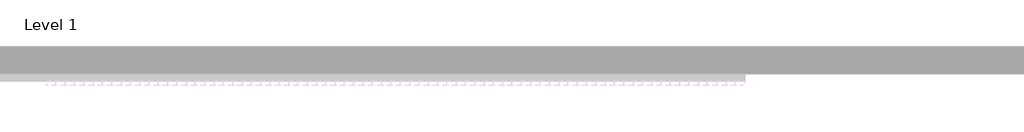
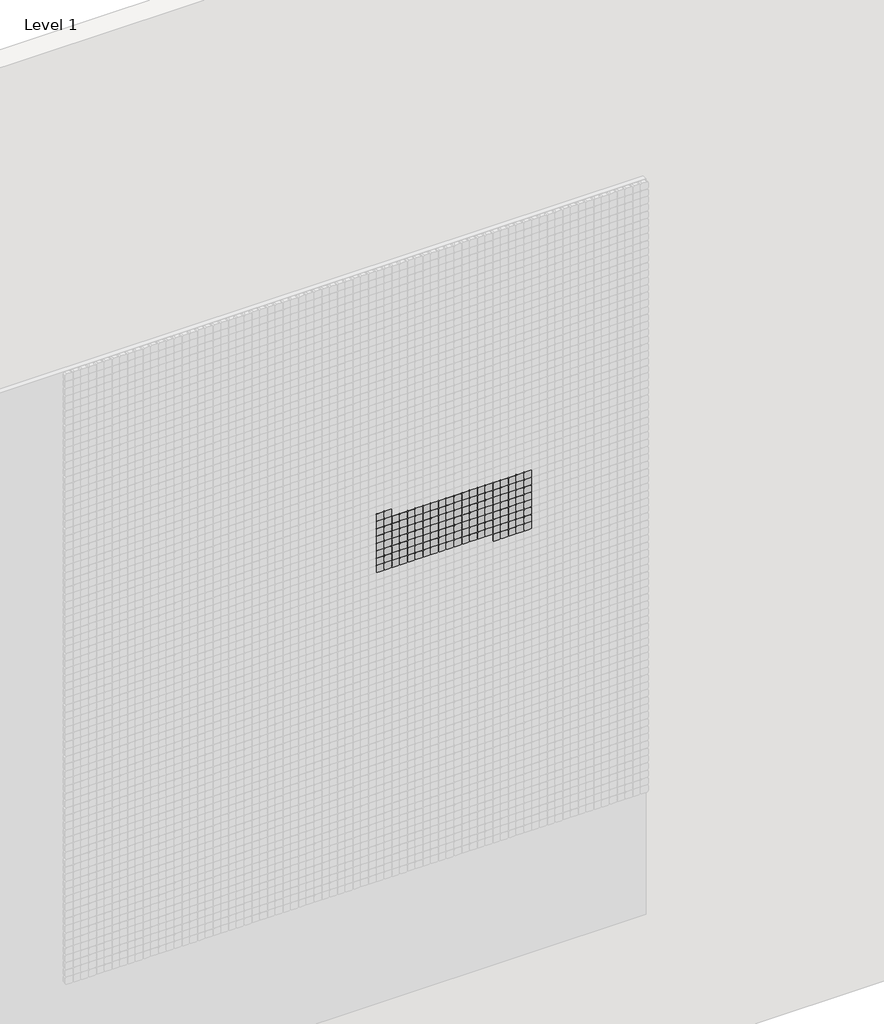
# One storey, part 53 of 71: 147 proxies.
"""IFC4 building model written with IfcOpenShell, lengths in millimetres."""

from ifc_helpers import new_model, si_unit, origin, place, context, project, spatial, transform, mapped, element, save
from components import generic_models_afde289c

model = new_model("IFC4")

# Units and contexts
model_context = context("Model", 3, world=origin())
ifc_project = project(units=[si_unit("LENGTHUNIT", "METRE", prefix="MILLI")], contexts=[model_context])

# Site, building, storey
site = spatial("IfcSite", under=ifc_project)
building = spatial("IfcBuilding", under=site)
storey = spatial("IfcBuildingStorey", under=building, Name="Level 1", Elevation=0.0)

# Proxies
placement = place(None, origin())
generic_models_shape = generic_models_afde289c(model_context)
element("IfcBuildingElementProxy", 1, Name="Pixel_M : Pixel_M", ObjectType="Pixel_M : Pixel_M", at=placement, inside=storey, context=model_context, shape_type="MappedRepresentation", body=[
    mapped(generic_models_shape, transform((8062.4280941, -75.0, 4316.3566215), x_axis=(1.0, 0.0, 0.0), y_axis=(0.0, 0.0, 1.0), z_axis=(0.0, -1.0, 0.0))),
])
element("IfcBuildingElementProxy", 2, Name="Pixel_M : Pixel_M", ObjectType="Pixel_M : Pixel_M", at=placement, inside=storey, context=model_context, shape_type="MappedRepresentation", body=[
    mapped(generic_models_shape, transform((8012.4280941, -75.0, 4316.3566215), x_axis=(1.0, 0.0, 0.0), y_axis=(0.0, 0.0, 1.0), z_axis=(0.0, -1.0, 0.0))),
])
element("IfcBuildingElementProxy", 3, Name="Pixel_M : Pixel_M", ObjectType="Pixel_M : Pixel_M", at=placement, inside=storey, context=model_context, shape_type="MappedRepresentation", body=[
    mapped(generic_models_shape, transform((8962.4280941, -75.0, 4266.3566215), x_axis=(1.0, 0.0, 0.0), y_axis=(0.0, 0.0, 1.0), z_axis=(0.0, -1.0, 0.0))),
])
element("IfcBuildingElementProxy", 4, Name="Pixel_M : Pixel_M", ObjectType="Pixel_M : Pixel_M", at=placement, inside=storey, context=model_context, shape_type="MappedRepresentation", body=[
    mapped(generic_models_shape, transform((8912.4280941, -75.0, 4266.3566215), x_axis=(1.0, 0.0, 0.0), y_axis=(0.0, 0.0, 1.0), z_axis=(0.0, -1.0, 0.0))),
])
element("IfcBuildingElementProxy", 5, Name="Pixel_M : Pixel_M", ObjectType="Pixel_M : Pixel_M", at=placement, inside=storey, context=model_context, shape_type="MappedRepresentation", body=[
    mapped(generic_models_shape, transform((8862.4280941, -75.0, 4266.3566215), x_axis=(1.0, 0.0, 0.0), y_axis=(0.0, 0.0, 1.0), z_axis=(0.0, -1.0, 0.0))),
])
element("IfcBuildingElementProxy", 6, Name="Pixel_M : Pixel_M", ObjectType="Pixel_M : Pixel_M", at=placement, inside=storey, context=model_context, shape_type="MappedRepresentation", body=[
    mapped(generic_models_shape, transform((8812.4280941, -75.0, 4266.3566215), x_axis=(1.0, 0.0, 0.0), y_axis=(0.0, 0.0, 1.0), z_axis=(0.0, -1.0, 0.0))),
])
element("IfcBuildingElementProxy", 7, Name="Pixel_M : Pixel_M", ObjectType="Pixel_M : Pixel_M", at=placement, inside=storey, context=model_context, shape_type="MappedRepresentation", body=[
    mapped(generic_models_shape, transform((8762.4280941, -75.0, 4266.3566215), x_axis=(1.0, 0.0, 0.0), y_axis=(0.0, 0.0, 1.0), z_axis=(0.0, -1.0, 0.0))),
])
element("IfcBuildingElementProxy", 8, Name="Pixel_M : Pixel_M", ObjectType="Pixel_M : Pixel_M", at=placement, inside=storey, context=model_context, shape_type="MappedRepresentation", body=[
    mapped(generic_models_shape, transform((8712.4280941, -75.0, 4266.3566215), x_axis=(1.0, 0.0, 0.0), y_axis=(0.0, 0.0, 1.0), z_axis=(0.0, -1.0, 0.0))),
])
element("IfcBuildingElementProxy", 9, Name="Pixel_M : Pixel_M", ObjectType="Pixel_M : Pixel_M", at=placement, inside=storey, context=model_context, shape_type="MappedRepresentation", body=[
    mapped(generic_models_shape, transform((8662.4280941, -75.0, 4266.3566215), x_axis=(1.0, 0.0, 0.0), y_axis=(0.0, 0.0, 1.0), z_axis=(0.0, -1.0, 0.0))),
])
element("IfcBuildingElementProxy", 10, Name="Pixel_M : Pixel_M", ObjectType="Pixel_M : Pixel_M", at=placement, inside=storey, context=model_context, shape_type="MappedRepresentation", body=[
    mapped(generic_models_shape, transform((8612.4280941, -75.0, 4266.3566215), x_axis=(1.0, 0.0, 0.0), y_axis=(0.0, 0.0, 1.0), z_axis=(0.0, -1.0, 0.0))),
])
element("IfcBuildingElementProxy", 11, Name="Pixel_M : Pixel_M", ObjectType="Pixel_M : Pixel_M", at=placement, inside=storey, context=model_context, shape_type="MappedRepresentation", body=[
    mapped(generic_models_shape, transform((8562.4280941, -75.0, 4266.3566215), x_axis=(1.0, 0.0, 0.0), y_axis=(0.0, 0.0, 1.0), z_axis=(0.0, -1.0, 0.0))),
])
element("IfcBuildingElementProxy", 12, Name="Pixel_M : Pixel_M", ObjectType="Pixel_M : Pixel_M", at=placement, inside=storey, context=model_context, shape_type="MappedRepresentation", body=[
    mapped(generic_models_shape, transform((8512.4280941, -75.0, 4266.3566215), x_axis=(1.0, 0.0, 0.0), y_axis=(0.0, 0.0, 1.0), z_axis=(0.0, -1.0, 0.0))),
])
element("IfcBuildingElementProxy", 13, Name="Pixel_M : Pixel_M", ObjectType="Pixel_M : Pixel_M", at=placement, inside=storey, context=model_context, shape_type="MappedRepresentation", body=[
    mapped(generic_models_shape, transform((8462.4280941, -75.0, 4266.3566215), x_axis=(1.0, 0.0, 0.0), y_axis=(0.0, 0.0, 1.0), z_axis=(0.0, -1.0, 0.0))),
])
element("IfcBuildingElementProxy", 14, Name="Pixel_M : Pixel_M", ObjectType="Pixel_M : Pixel_M", at=placement, inside=storey, context=model_context, shape_type="MappedRepresentation", body=[
    mapped(generic_models_shape, transform((8412.4280941, -75.0, 4266.3566215), x_axis=(1.0, 0.0, 0.0), y_axis=(0.0, 0.0, 1.0), z_axis=(0.0, -1.0, 0.0))),
])
element("IfcBuildingElementProxy", 15, Name="Pixel_M : Pixel_M", ObjectType="Pixel_M : Pixel_M", at=placement, inside=storey, context=model_context, shape_type="MappedRepresentation", body=[
    mapped(generic_models_shape, transform((8362.4280941, -75.0, 4266.3566215), x_axis=(1.0, 0.0, 0.0), y_axis=(0.0, 0.0, 1.0), z_axis=(0.0, -1.0, 0.0))),
])
element("IfcBuildingElementProxy", 16, Name="Pixel_M : Pixel_M", ObjectType="Pixel_M : Pixel_M", at=placement, inside=storey, context=model_context, shape_type="MappedRepresentation", body=[
    mapped(generic_models_shape, transform((8312.4280941, -75.0, 4266.3566215), x_axis=(1.0, 0.0, 0.0), y_axis=(0.0, 0.0, 1.0), z_axis=(0.0, -1.0, 0.0))),
])
element("IfcBuildingElementProxy", 17, Name="Pixel_M : Pixel_M", ObjectType="Pixel_M : Pixel_M", at=placement, inside=storey, context=model_context, shape_type="MappedRepresentation", body=[
    mapped(generic_models_shape, transform((8262.4280941, -75.0, 4266.3566215), x_axis=(1.0, 0.0, 0.0), y_axis=(0.0, 0.0, 1.0), z_axis=(0.0, -1.0, 0.0))),
])
element("IfcBuildingElementProxy", 18, Name="Pixel_M : Pixel_M", ObjectType="Pixel_M : Pixel_M", at=placement, inside=storey, context=model_context, shape_type="MappedRepresentation", body=[
    mapped(generic_models_shape, transform((8212.4280941, -75.0, 4266.3566215), x_axis=(1.0, 0.0, 0.0), y_axis=(0.0, 0.0, 1.0), z_axis=(0.0, -1.0, 0.0))),
])
element("IfcBuildingElementProxy", 19, Name="Pixel_M : Pixel_M", ObjectType="Pixel_M : Pixel_M", at=placement, inside=storey, context=model_context, shape_type="MappedRepresentation", body=[
    mapped(generic_models_shape, transform((8162.4280941, -75.0, 4266.3566215), x_axis=(1.0, 0.0, 0.0), y_axis=(0.0, 0.0, 1.0), z_axis=(0.0, -1.0, 0.0))),
])
element("IfcBuildingElementProxy", 20, Name="Pixel_M : Pixel_M", ObjectType="Pixel_M : Pixel_M", at=placement, inside=storey, context=model_context, shape_type="MappedRepresentation", body=[
    mapped(generic_models_shape, transform((8112.4280941, -75.0, 4266.3566215), x_axis=(1.0, 0.0, 0.0), y_axis=(0.0, 0.0, 1.0), z_axis=(0.0, -1.0, 0.0))),
])
element("IfcBuildingElementProxy", 21, Name="Pixel_M : Pixel_M", ObjectType="Pixel_M : Pixel_M", at=placement, inside=storey, context=model_context, shape_type="MappedRepresentation", body=[
    mapped(generic_models_shape, transform((8062.4280941, -75.0, 4266.3566215), x_axis=(1.0, 0.0, 0.0), y_axis=(0.0, 0.0, 1.0), z_axis=(0.0, -1.0, 0.0))),
])
element("IfcBuildingElementProxy", 22, Name="Pixel_M : Pixel_M", ObjectType="Pixel_M : Pixel_M", at=placement, inside=storey, context=model_context, shape_type="MappedRepresentation", body=[
    mapped(generic_models_shape, transform((8012.4280941, -75.0, 4266.3566215), x_axis=(1.0, 0.0, 0.0), y_axis=(0.0, 0.0, 1.0), z_axis=(0.0, -1.0, 0.0))),
])
element("IfcBuildingElementProxy", 23, Name="Pixel_M : Pixel_M", ObjectType="Pixel_M : Pixel_M", at=placement, inside=storey, context=model_context, shape_type="MappedRepresentation", body=[
    mapped(generic_models_shape, transform((8962.4280941, -75.0, 4216.3566215), x_axis=(1.0, 0.0, 0.0), y_axis=(0.0, 0.0, 1.0), z_axis=(0.0, -1.0, 0.0))),
])
element("IfcBuildingElementProxy", 24, Name="Pixel_M : Pixel_M", ObjectType="Pixel_M : Pixel_M", at=placement, inside=storey, context=model_context, shape_type="MappedRepresentation", body=[
    mapped(generic_models_shape, transform((8912.4280941, -75.0, 4216.3566215), x_axis=(1.0, 0.0, 0.0), y_axis=(0.0, 0.0, 1.0), z_axis=(0.0, -1.0, 0.0))),
])
element("IfcBuildingElementProxy", 25, Name="Pixel_M : Pixel_M", ObjectType="Pixel_M : Pixel_M", at=placement, inside=storey, context=model_context, shape_type="MappedRepresentation", body=[
    mapped(generic_models_shape, transform((8862.4280941, -75.0, 4216.3566215), x_axis=(1.0, 0.0, 0.0), y_axis=(0.0, 0.0, 1.0), z_axis=(0.0, -1.0, 0.0))),
])
element("IfcBuildingElementProxy", 26, Name="Pixel_M : Pixel_M", ObjectType="Pixel_M : Pixel_M", at=placement, inside=storey, context=model_context, shape_type="MappedRepresentation", body=[
    mapped(generic_models_shape, transform((8812.4280941, -75.0, 4216.3566215), x_axis=(1.0, 0.0, 0.0), y_axis=(0.0, 0.0, 1.0), z_axis=(0.0, -1.0, 0.0))),
])
element("IfcBuildingElementProxy", 27, Name="Pixel_M : Pixel_M", ObjectType="Pixel_M : Pixel_M", at=placement, inside=storey, context=model_context, shape_type="MappedRepresentation", body=[
    mapped(generic_models_shape, transform((8762.4280941, -75.0, 4216.3566215), x_axis=(1.0, 0.0, 0.0), y_axis=(0.0, 0.0, 1.0), z_axis=(0.0, -1.0, 0.0))),
])
element("IfcBuildingElementProxy", 28, Name="Pixel_M : Pixel_M", ObjectType="Pixel_M : Pixel_M", at=placement, inside=storey, context=model_context, shape_type="MappedRepresentation", body=[
    mapped(generic_models_shape, transform((8712.4280941, -75.0, 4216.3566215), x_axis=(1.0, 0.0, 0.0), y_axis=(0.0, 0.0, 1.0), z_axis=(0.0, -1.0, 0.0))),
])
element("IfcBuildingElementProxy", 29, Name="Pixel_M : Pixel_M", ObjectType="Pixel_M : Pixel_M", at=placement, inside=storey, context=model_context, shape_type="MappedRepresentation", body=[
    mapped(generic_models_shape, transform((8662.4280941, -75.0, 4216.3566215), x_axis=(1.0, 0.0, 0.0), y_axis=(0.0, 0.0, 1.0), z_axis=(0.0, -1.0, 0.0))),
])
element("IfcBuildingElementProxy", 30, Name="Pixel_M : Pixel_M", ObjectType="Pixel_M : Pixel_M", at=placement, inside=storey, context=model_context, shape_type="MappedRepresentation", body=[
    mapped(generic_models_shape, transform((8612.4280941, -75.0, 4216.3566215), x_axis=(1.0, 0.0, 0.0), y_axis=(0.0, 0.0, 1.0), z_axis=(0.0, -1.0, 0.0))),
])
element("IfcBuildingElementProxy", 31, Name="Pixel_M : Pixel_M", ObjectType="Pixel_M : Pixel_M", at=placement, inside=storey, context=model_context, shape_type="MappedRepresentation", body=[
    mapped(generic_models_shape, transform((8562.4280941, -75.0, 4216.3566215), x_axis=(1.0, 0.0, 0.0), y_axis=(0.0, 0.0, 1.0), z_axis=(0.0, -1.0, 0.0))),
])
element("IfcBuildingElementProxy", 32, Name="Pixel_M : Pixel_M", ObjectType="Pixel_M : Pixel_M", at=placement, inside=storey, context=model_context, shape_type="MappedRepresentation", body=[
    mapped(generic_models_shape, transform((8512.4280941, -75.0, 4216.3566215), x_axis=(1.0, 0.0, 0.0), y_axis=(0.0, 0.0, 1.0), z_axis=(0.0, -1.0, 0.0))),
])
element("IfcBuildingElementProxy", 33, Name="Pixel_M : Pixel_M", ObjectType="Pixel_M : Pixel_M", at=placement, inside=storey, context=model_context, shape_type="MappedRepresentation", body=[
    mapped(generic_models_shape, transform((8462.4280941, -75.0, 4216.3566215), x_axis=(1.0, 0.0, 0.0), y_axis=(0.0, 0.0, 1.0), z_axis=(0.0, -1.0, 0.0))),
])
element("IfcBuildingElementProxy", 34, Name="Pixel_M : Pixel_M", ObjectType="Pixel_M : Pixel_M", at=placement, inside=storey, context=model_context, shape_type="MappedRepresentation", body=[
    mapped(generic_models_shape, transform((8412.4280941, -75.0, 4216.3566215), x_axis=(1.0, 0.0, 0.0), y_axis=(0.0, 0.0, 1.0), z_axis=(0.0, -1.0, 0.0))),
])
element("IfcBuildingElementProxy", 35, Name="Pixel_M : Pixel_M", ObjectType="Pixel_M : Pixel_M", at=placement, inside=storey, context=model_context, shape_type="MappedRepresentation", body=[
    mapped(generic_models_shape, transform((8362.4280941, -75.0, 4216.3566215), x_axis=(1.0, 0.0, 0.0), y_axis=(0.0, 0.0, 1.0), z_axis=(0.0, -1.0, 0.0))),
])
element("IfcBuildingElementProxy", 36, Name="Pixel_M : Pixel_M", ObjectType="Pixel_M : Pixel_M", at=placement, inside=storey, context=model_context, shape_type="MappedRepresentation", body=[
    mapped(generic_models_shape, transform((8312.4280941, -75.0, 4216.3566215), x_axis=(1.0, 0.0, 0.0), y_axis=(0.0, 0.0, 1.0), z_axis=(0.0, -1.0, 0.0))),
])
element("IfcBuildingElementProxy", 37, Name="Pixel_M : Pixel_M", ObjectType="Pixel_M : Pixel_M", at=placement, inside=storey, context=model_context, shape_type="MappedRepresentation", body=[
    mapped(generic_models_shape, transform((8262.4280941, -75.0, 4216.3566215), x_axis=(1.0, 0.0, 0.0), y_axis=(0.0, 0.0, 1.0), z_axis=(0.0, -1.0, 0.0))),
])
element("IfcBuildingElementProxy", 38, Name="Pixel_M : Pixel_M", ObjectType="Pixel_M : Pixel_M", at=placement, inside=storey, context=model_context, shape_type="MappedRepresentation", body=[
    mapped(generic_models_shape, transform((8212.4280941, -75.0, 4216.3566215), x_axis=(1.0, 0.0, 0.0), y_axis=(0.0, 0.0, 1.0), z_axis=(0.0, -1.0, 0.0))),
])
element("IfcBuildingElementProxy", 39, Name="Pixel_M : Pixel_M", ObjectType="Pixel_M : Pixel_M", at=placement, inside=storey, context=model_context, shape_type="MappedRepresentation", body=[
    mapped(generic_models_shape, transform((8162.4280941, -75.0, 4216.3566215), x_axis=(1.0, 0.0, 0.0), y_axis=(0.0, 0.0, 1.0), z_axis=(0.0, -1.0, 0.0))),
])
element("IfcBuildingElementProxy", 40, Name="Pixel_M : Pixel_M", ObjectType="Pixel_M : Pixel_M", at=placement, inside=storey, context=model_context, shape_type="MappedRepresentation", body=[
    mapped(generic_models_shape, transform((8112.4280941, -75.0, 4216.3566215), x_axis=(1.0, 0.0, 0.0), y_axis=(0.0, 0.0, 1.0), z_axis=(0.0, -1.0, 0.0))),
])
element("IfcBuildingElementProxy", 41, Name="Pixel_M : Pixel_M", ObjectType="Pixel_M : Pixel_M", at=placement, inside=storey, context=model_context, shape_type="MappedRepresentation", body=[
    mapped(generic_models_shape, transform((8062.4280941, -75.0, 4216.3566215), x_axis=(1.0, 0.0, 0.0), y_axis=(0.0, 0.0, 1.0), z_axis=(0.0, -1.0, 0.0))),
])
element("IfcBuildingElementProxy", 42, Name="Pixel_M : Pixel_M", ObjectType="Pixel_M : Pixel_M", at=placement, inside=storey, context=model_context, shape_type="MappedRepresentation", body=[
    mapped(generic_models_shape, transform((8012.4280941, -75.0, 4216.3566215), x_axis=(1.0, 0.0, 0.0), y_axis=(0.0, 0.0, 1.0), z_axis=(0.0, -1.0, 0.0))),
])
element("IfcBuildingElementProxy", 43, Name="Pixel_M : Pixel_M", ObjectType="Pixel_M : Pixel_M", at=placement, inside=storey, context=model_context, shape_type="MappedRepresentation", body=[
    mapped(generic_models_shape, transform((8962.4280941, -75.0, 4166.3566215), x_axis=(1.0, 0.0, 0.0), y_axis=(0.0, 0.0, 1.0), z_axis=(0.0, -1.0, 0.0))),
])
element("IfcBuildingElementProxy", 44, Name="Pixel_M : Pixel_M", ObjectType="Pixel_M : Pixel_M", at=placement, inside=storey, context=model_context, shape_type="MappedRepresentation", body=[
    mapped(generic_models_shape, transform((8912.4280941, -75.0, 4166.3566215), x_axis=(1.0, 0.0, 0.0), y_axis=(0.0, 0.0, 1.0), z_axis=(0.0, -1.0, 0.0))),
])
element("IfcBuildingElementProxy", 45, Name="Pixel_M : Pixel_M", ObjectType="Pixel_M : Pixel_M", at=placement, inside=storey, context=model_context, shape_type="MappedRepresentation", body=[
    mapped(generic_models_shape, transform((8862.4280941, -75.0, 4166.3566215), x_axis=(1.0, 0.0, 0.0), y_axis=(0.0, 0.0, 1.0), z_axis=(0.0, -1.0, 0.0))),
])
element("IfcBuildingElementProxy", 46, Name="Pixel_M : Pixel_M", ObjectType="Pixel_M : Pixel_M", at=placement, inside=storey, context=model_context, shape_type="MappedRepresentation", body=[
    mapped(generic_models_shape, transform((8812.4280941, -75.0, 4166.3566215), x_axis=(1.0, 0.0, 0.0), y_axis=(0.0, 0.0, 1.0), z_axis=(0.0, -1.0, 0.0))),
])
element("IfcBuildingElementProxy", 47, Name="Pixel_M : Pixel_M", ObjectType="Pixel_M : Pixel_M", at=placement, inside=storey, context=model_context, shape_type="MappedRepresentation", body=[
    mapped(generic_models_shape, transform((8762.4280941, -75.0, 4166.3566215), x_axis=(1.0, 0.0, 0.0), y_axis=(0.0, 0.0, 1.0), z_axis=(0.0, -1.0, 0.0))),
])
element("IfcBuildingElementProxy", 48, Name="Pixel_M : Pixel_M", ObjectType="Pixel_M : Pixel_M", at=placement, inside=storey, context=model_context, shape_type="MappedRepresentation", body=[
    mapped(generic_models_shape, transform((8712.4280941, -75.0, 4166.3566215), x_axis=(1.0, 0.0, 0.0), y_axis=(0.0, 0.0, 1.0), z_axis=(0.0, -1.0, 0.0))),
])
element("IfcBuildingElementProxy", 49, Name="Pixel_M : Pixel_M", ObjectType="Pixel_M : Pixel_M", at=placement, inside=storey, context=model_context, shape_type="MappedRepresentation", body=[
    mapped(generic_models_shape, transform((8662.4280941, -75.0, 4166.3566215), x_axis=(1.0, 0.0, 0.0), y_axis=(0.0, 0.0, 1.0), z_axis=(0.0, -1.0, 0.0))),
])
element("IfcBuildingElementProxy", 50, Name="Pixel_M : Pixel_M", ObjectType="Pixel_M : Pixel_M", at=placement, inside=storey, context=model_context, shape_type="MappedRepresentation", body=[
    mapped(generic_models_shape, transform((8612.4280941, -75.0, 4166.3566215), x_axis=(1.0, 0.0, 0.0), y_axis=(0.0, 0.0, 1.0), z_axis=(0.0, -1.0, 0.0))),
])
element("IfcBuildingElementProxy", 51, Name="Pixel_M : Pixel_M", ObjectType="Pixel_M : Pixel_M", at=placement, inside=storey, context=model_context, shape_type="MappedRepresentation", body=[
    mapped(generic_models_shape, transform((8562.4280941, -75.0, 4166.3566215), x_axis=(1.0, 0.0, 0.0), y_axis=(0.0, 0.0, 1.0), z_axis=(0.0, -1.0, 0.0))),
])
element("IfcBuildingElementProxy", 52, Name="Pixel_M : Pixel_M", ObjectType="Pixel_M : Pixel_M", at=placement, inside=storey, context=model_context, shape_type="MappedRepresentation", body=[
    mapped(generic_models_shape, transform((8512.4280941, -75.0, 4166.3566215), x_axis=(1.0, 0.0, 0.0), y_axis=(0.0, 0.0, 1.0), z_axis=(0.0, -1.0, 0.0))),
])
element("IfcBuildingElementProxy", 53, Name="Pixel_M : Pixel_M", ObjectType="Pixel_M : Pixel_M", at=placement, inside=storey, context=model_context, shape_type="MappedRepresentation", body=[
    mapped(generic_models_shape, transform((8462.4280941, -75.0, 4166.3566215), x_axis=(1.0, 0.0, 0.0), y_axis=(0.0, 0.0, 1.0), z_axis=(0.0, -1.0, 0.0))),
])
element("IfcBuildingElementProxy", 54, Name="Pixel_M : Pixel_M", ObjectType="Pixel_M : Pixel_M", at=placement, inside=storey, context=model_context, shape_type="MappedRepresentation", body=[
    mapped(generic_models_shape, transform((8412.4280941, -75.0, 4166.3566215), x_axis=(1.0, 0.0, 0.0), y_axis=(0.0, 0.0, 1.0), z_axis=(0.0, -1.0, 0.0))),
])
element("IfcBuildingElementProxy", 55, Name="Pixel_M : Pixel_M", ObjectType="Pixel_M : Pixel_M", at=placement, inside=storey, context=model_context, shape_type="MappedRepresentation", body=[
    mapped(generic_models_shape, transform((8362.4280941, -75.0, 4166.3566215), x_axis=(1.0, 0.0, 0.0), y_axis=(0.0, 0.0, 1.0), z_axis=(0.0, -1.0, 0.0))),
])
element("IfcBuildingElementProxy", 56, Name="Pixel_M : Pixel_M", ObjectType="Pixel_M : Pixel_M", at=placement, inside=storey, context=model_context, shape_type="MappedRepresentation", body=[
    mapped(generic_models_shape, transform((8312.4280941, -75.0, 4166.3566215), x_axis=(1.0, 0.0, 0.0), y_axis=(0.0, 0.0, 1.0), z_axis=(0.0, -1.0, 0.0))),
])
element("IfcBuildingElementProxy", 57, Name="Pixel_M : Pixel_M", ObjectType="Pixel_M : Pixel_M", at=placement, inside=storey, context=model_context, shape_type="MappedRepresentation", body=[
    mapped(generic_models_shape, transform((8262.4280941, -75.0, 4166.3566215), x_axis=(1.0, 0.0, 0.0), y_axis=(0.0, 0.0, 1.0), z_axis=(0.0, -1.0, 0.0))),
])
element("IfcBuildingElementProxy", 58, Name="Pixel_M : Pixel_M", ObjectType="Pixel_M : Pixel_M", at=placement, inside=storey, context=model_context, shape_type="MappedRepresentation", body=[
    mapped(generic_models_shape, transform((8212.4280941, -75.0, 4166.3566215), x_axis=(1.0, 0.0, 0.0), y_axis=(0.0, 0.0, 1.0), z_axis=(0.0, -1.0, 0.0))),
])
element("IfcBuildingElementProxy", 59, Name="Pixel_M : Pixel_M", ObjectType="Pixel_M : Pixel_M", at=placement, inside=storey, context=model_context, shape_type="MappedRepresentation", body=[
    mapped(generic_models_shape, transform((8162.4280941, -75.0, 4166.3566215), x_axis=(1.0, 0.0, 0.0), y_axis=(0.0, 0.0, 1.0), z_axis=(0.0, -1.0, 0.0))),
])
element("IfcBuildingElementProxy", 60, Name="Pixel_M : Pixel_M", ObjectType="Pixel_M : Pixel_M", at=placement, inside=storey, context=model_context, shape_type="MappedRepresentation", body=[
    mapped(generic_models_shape, transform((8112.4280941, -75.0, 4166.3566215), x_axis=(1.0, 0.0, 0.0), y_axis=(0.0, 0.0, 1.0), z_axis=(0.0, -1.0, 0.0))),
])
element("IfcBuildingElementProxy", 61, Name="Pixel_M : Pixel_M", ObjectType="Pixel_M : Pixel_M", at=placement, inside=storey, context=model_context, shape_type="MappedRepresentation", body=[
    mapped(generic_models_shape, transform((8062.4280941, -75.0, 4166.3566215), x_axis=(1.0, 0.0, 0.0), y_axis=(0.0, 0.0, 1.0), z_axis=(0.0, -1.0, 0.0))),
])
element("IfcBuildingElementProxy", 62, Name="Pixel_M : Pixel_M", ObjectType="Pixel_M : Pixel_M", at=placement, inside=storey, context=model_context, shape_type="MappedRepresentation", body=[
    mapped(generic_models_shape, transform((8012.4280941, -75.0, 4166.3566215), x_axis=(1.0, 0.0, 0.0), y_axis=(0.0, 0.0, 1.0), z_axis=(0.0, -1.0, 0.0))),
])
element("IfcBuildingElementProxy", 63, Name="Pixel_M : Pixel_M", ObjectType="Pixel_M : Pixel_M", at=placement, inside=storey, context=model_context, shape_type="MappedRepresentation", body=[
    mapped(generic_models_shape, transform((8962.4280941, -75.0, 4116.3566215), x_axis=(1.0, 0.0, 0.0), y_axis=(0.0, 0.0, 1.0), z_axis=(0.0, -1.0, 0.0))),
])
element("IfcBuildingElementProxy", 64, Name="Pixel_M : Pixel_M", ObjectType="Pixel_M : Pixel_M", at=placement, inside=storey, context=model_context, shape_type="MappedRepresentation", body=[
    mapped(generic_models_shape, transform((8912.4280941, -75.0, 4116.3566215), x_axis=(1.0, 0.0, 0.0), y_axis=(0.0, 0.0, 1.0), z_axis=(0.0, -1.0, 0.0))),
])
element("IfcBuildingElementProxy", 65, Name="Pixel_M : Pixel_M", ObjectType="Pixel_M : Pixel_M", at=placement, inside=storey, context=model_context, shape_type="MappedRepresentation", body=[
    mapped(generic_models_shape, transform((8862.4280941, -75.0, 4116.3566215), x_axis=(1.0, 0.0, 0.0), y_axis=(0.0, 0.0, 1.0), z_axis=(0.0, -1.0, 0.0))),
])
element("IfcBuildingElementProxy", 66, Name="Pixel_M : Pixel_M", ObjectType="Pixel_M : Pixel_M", at=placement, inside=storey, context=model_context, shape_type="MappedRepresentation", body=[
    mapped(generic_models_shape, transform((8812.4280941, -75.0, 4116.3566215), x_axis=(1.0, 0.0, 0.0), y_axis=(0.0, 0.0, 1.0), z_axis=(0.0, -1.0, 0.0))),
])
element("IfcBuildingElementProxy", 67, Name="Pixel_M : Pixel_M", ObjectType="Pixel_M : Pixel_M", at=placement, inside=storey, context=model_context, shape_type="MappedRepresentation", body=[
    mapped(generic_models_shape, transform((8762.4280941, -75.0, 4116.3566215), x_axis=(1.0, 0.0, 0.0), y_axis=(0.0, 0.0, 1.0), z_axis=(0.0, -1.0, 0.0))),
])
element("IfcBuildingElementProxy", 68, Name="Pixel_M : Pixel_M", ObjectType="Pixel_M : Pixel_M", at=placement, inside=storey, context=model_context, shape_type="MappedRepresentation", body=[
    mapped(generic_models_shape, transform((8712.4280941, -75.0, 4116.3566215), x_axis=(1.0, 0.0, 0.0), y_axis=(0.0, 0.0, 1.0), z_axis=(0.0, -1.0, 0.0))),
])
element("IfcBuildingElementProxy", 69, Name="Pixel_M : Pixel_M", ObjectType="Pixel_M : Pixel_M", at=placement, inside=storey, context=model_context, shape_type="MappedRepresentation", body=[
    mapped(generic_models_shape, transform((8662.4280941, -75.0, 4116.3566215), x_axis=(1.0, 0.0, 0.0), y_axis=(0.0, 0.0, 1.0), z_axis=(0.0, -1.0, 0.0))),
])
element("IfcBuildingElementProxy", 70, Name="Pixel_M : Pixel_M", ObjectType="Pixel_M : Pixel_M", at=placement, inside=storey, context=model_context, shape_type="MappedRepresentation", body=[
    mapped(generic_models_shape, transform((8612.4280941, -75.0, 4116.3566215), x_axis=(1.0, 0.0, 0.0), y_axis=(0.0, 0.0, 1.0), z_axis=(0.0, -1.0, 0.0))),
])
element("IfcBuildingElementProxy", 71, Name="Pixel_M : Pixel_M", ObjectType="Pixel_M : Pixel_M", at=placement, inside=storey, context=model_context, shape_type="MappedRepresentation", body=[
    mapped(generic_models_shape, transform((8562.4280941, -75.0, 4116.3566215), x_axis=(1.0, 0.0, 0.0), y_axis=(0.0, 0.0, 1.0), z_axis=(0.0, -1.0, 0.0))),
])
element("IfcBuildingElementProxy", 72, Name="Pixel_M : Pixel_M", ObjectType="Pixel_M : Pixel_M", at=placement, inside=storey, context=model_context, shape_type="MappedRepresentation", body=[
    mapped(generic_models_shape, transform((8512.4280941, -75.0, 4116.3566215), x_axis=(1.0, 0.0, 0.0), y_axis=(0.0, 0.0, 1.0), z_axis=(0.0, -1.0, 0.0))),
])
element("IfcBuildingElementProxy", 73, Name="Pixel_M : Pixel_M", ObjectType="Pixel_M : Pixel_M", at=placement, inside=storey, context=model_context, shape_type="MappedRepresentation", body=[
    mapped(generic_models_shape, transform((8462.4280941, -75.0, 4116.3566215), x_axis=(1.0, 0.0, 0.0), y_axis=(0.0, 0.0, 1.0), z_axis=(0.0, -1.0, 0.0))),
])
element("IfcBuildingElementProxy", 74, Name="Pixel_M : Pixel_M", ObjectType="Pixel_M : Pixel_M", at=placement, inside=storey, context=model_context, shape_type="MappedRepresentation", body=[
    mapped(generic_models_shape, transform((8412.4280941, -75.0, 4116.3566215), x_axis=(1.0, 0.0, 0.0), y_axis=(0.0, 0.0, 1.0), z_axis=(0.0, -1.0, 0.0))),
])
element("IfcBuildingElementProxy", 75, Name="Pixel_M : Pixel_M", ObjectType="Pixel_M : Pixel_M", at=placement, inside=storey, context=model_context, shape_type="MappedRepresentation", body=[
    mapped(generic_models_shape, transform((8362.4280941, -75.0, 4116.3566215), x_axis=(1.0, 0.0, 0.0), y_axis=(0.0, 0.0, 1.0), z_axis=(0.0, -1.0, 0.0))),
])
element("IfcBuildingElementProxy", 76, Name="Pixel_M : Pixel_M", ObjectType="Pixel_M : Pixel_M", at=placement, inside=storey, context=model_context, shape_type="MappedRepresentation", body=[
    mapped(generic_models_shape, transform((8312.4280941, -75.0, 4116.3566215), x_axis=(1.0, 0.0, 0.0), y_axis=(0.0, 0.0, 1.0), z_axis=(0.0, -1.0, 0.0))),
])
element("IfcBuildingElementProxy", 77, Name="Pixel_M : Pixel_M", ObjectType="Pixel_M : Pixel_M", at=placement, inside=storey, context=model_context, shape_type="MappedRepresentation", body=[
    mapped(generic_models_shape, transform((8262.4280941, -75.0, 4116.3566215), x_axis=(1.0, 0.0, 0.0), y_axis=(0.0, 0.0, 1.0), z_axis=(0.0, -1.0, 0.0))),
])
element("IfcBuildingElementProxy", 78, Name="Pixel_M : Pixel_M", ObjectType="Pixel_M : Pixel_M", at=placement, inside=storey, context=model_context, shape_type="MappedRepresentation", body=[
    mapped(generic_models_shape, transform((8212.4280941, -75.0, 4116.3566215), x_axis=(1.0, 0.0, 0.0), y_axis=(0.0, 0.0, 1.0), z_axis=(0.0, -1.0, 0.0))),
])
element("IfcBuildingElementProxy", 79, Name="Pixel_M : Pixel_M", ObjectType="Pixel_M : Pixel_M", at=placement, inside=storey, context=model_context, shape_type="MappedRepresentation", body=[
    mapped(generic_models_shape, transform((8162.4280941, -75.0, 4116.3566215), x_axis=(1.0, 0.0, 0.0), y_axis=(0.0, 0.0, 1.0), z_axis=(0.0, -1.0, 0.0))),
])
element("IfcBuildingElementProxy", 80, Name="Pixel_M : Pixel_M", ObjectType="Pixel_M : Pixel_M", at=placement, inside=storey, context=model_context, shape_type="MappedRepresentation", body=[
    mapped(generic_models_shape, transform((8112.4280941, -75.0, 4116.3566215), x_axis=(1.0, 0.0, 0.0), y_axis=(0.0, 0.0, 1.0), z_axis=(0.0, -1.0, 0.0))),
])
element("IfcBuildingElementProxy", 81, Name="Pixel_M : Pixel_M", ObjectType="Pixel_M : Pixel_M", at=placement, inside=storey, context=model_context, shape_type="MappedRepresentation", body=[
    mapped(generic_models_shape, transform((8062.4280941, -75.0, 4116.3566215), x_axis=(1.0, 0.0, 0.0), y_axis=(0.0, 0.0, 1.0), z_axis=(0.0, -1.0, 0.0))),
])
element("IfcBuildingElementProxy", 82, Name="Pixel_M : Pixel_M", ObjectType="Pixel_M : Pixel_M", at=placement, inside=storey, context=model_context, shape_type="MappedRepresentation", body=[
    mapped(generic_models_shape, transform((8012.4280941, -75.0, 4116.3566215), x_axis=(1.0, 0.0, 0.0), y_axis=(0.0, 0.0, 1.0), z_axis=(0.0, -1.0, 0.0))),
])
element("IfcBuildingElementProxy", 83, Name="Pixel_M : Pixel_M", ObjectType="Pixel_M : Pixel_M", at=placement, inside=storey, context=model_context, shape_type="MappedRepresentation", body=[
    mapped(generic_models_shape, transform((8962.4280941, -75.0, 4066.3566215), x_axis=(1.0, 0.0, 0.0), y_axis=(0.0, 0.0, 1.0), z_axis=(0.0, -1.0, 0.0))),
])
element("IfcBuildingElementProxy", 84, Name="Pixel_M : Pixel_M", ObjectType="Pixel_M : Pixel_M", at=placement, inside=storey, context=model_context, shape_type="MappedRepresentation", body=[
    mapped(generic_models_shape, transform((8912.4280941, -75.0, 4066.3566215), x_axis=(1.0, 0.0, 0.0), y_axis=(0.0, 0.0, 1.0), z_axis=(0.0, -1.0, 0.0))),
])
element("IfcBuildingElementProxy", 85, Name="Pixel_M : Pixel_M", ObjectType="Pixel_M : Pixel_M", at=placement, inside=storey, context=model_context, shape_type="MappedRepresentation", body=[
    mapped(generic_models_shape, transform((8862.4280941, -75.0, 4066.3566215), x_axis=(1.0, 0.0, 0.0), y_axis=(0.0, 0.0, 1.0), z_axis=(0.0, -1.0, 0.0))),
])
element("IfcBuildingElementProxy", 86, Name="Pixel_M : Pixel_M", ObjectType="Pixel_M : Pixel_M", at=placement, inside=storey, context=model_context, shape_type="MappedRepresentation", body=[
    mapped(generic_models_shape, transform((8812.4280941, -75.0, 4066.3566215), x_axis=(1.0, 0.0, 0.0), y_axis=(0.0, 0.0, 1.0), z_axis=(0.0, -1.0, 0.0))),
])
element("IfcBuildingElementProxy", 87, Name="Pixel_M : Pixel_M", ObjectType="Pixel_M : Pixel_M", at=placement, inside=storey, context=model_context, shape_type="MappedRepresentation", body=[
    mapped(generic_models_shape, transform((8762.4280941, -75.0, 4066.3566215), x_axis=(1.0, 0.0, 0.0), y_axis=(0.0, 0.0, 1.0), z_axis=(0.0, -1.0, 0.0))),
])
element("IfcBuildingElementProxy", 88, Name="Pixel_M : Pixel_M", ObjectType="Pixel_M : Pixel_M", at=placement, inside=storey, context=model_context, shape_type="MappedRepresentation", body=[
    mapped(generic_models_shape, transform((8712.4280941, -75.0, 4066.3566215), x_axis=(1.0, 0.0, 0.0), y_axis=(0.0, 0.0, 1.0), z_axis=(0.0, -1.0, 0.0))),
])
element("IfcBuildingElementProxy", 89, Name="Pixel_M : Pixel_M", ObjectType="Pixel_M : Pixel_M", at=placement, inside=storey, context=model_context, shape_type="MappedRepresentation", body=[
    mapped(generic_models_shape, transform((8662.4280941, -75.0, 4066.3566215), x_axis=(1.0, 0.0, 0.0), y_axis=(0.0, 0.0, 1.0), z_axis=(0.0, -1.0, 0.0))),
])
element("IfcBuildingElementProxy", 90, Name="Pixel_M : Pixel_M", ObjectType="Pixel_M : Pixel_M", at=placement, inside=storey, context=model_context, shape_type="MappedRepresentation", body=[
    mapped(generic_models_shape, transform((8612.4280941, -75.0, 4066.3566215), x_axis=(1.0, 0.0, 0.0), y_axis=(0.0, 0.0, 1.0), z_axis=(0.0, -1.0, 0.0))),
])
element("IfcBuildingElementProxy", 91, Name="Pixel_M : Pixel_M", ObjectType="Pixel_M : Pixel_M", at=placement, inside=storey, context=model_context, shape_type="MappedRepresentation", body=[
    mapped(generic_models_shape, transform((8562.4280941, -75.0, 4066.3566215), x_axis=(1.0, 0.0, 0.0), y_axis=(0.0, 0.0, 1.0), z_axis=(0.0, -1.0, 0.0))),
])
element("IfcBuildingElementProxy", 92, Name="Pixel_M : Pixel_M", ObjectType="Pixel_M : Pixel_M", at=placement, inside=storey, context=model_context, shape_type="MappedRepresentation", body=[
    mapped(generic_models_shape, transform((8512.4280941, -75.0, 4066.3566215), x_axis=(1.0, 0.0, 0.0), y_axis=(0.0, 0.0, 1.0), z_axis=(0.0, -1.0, 0.0))),
])
element("IfcBuildingElementProxy", 93, Name="Pixel_M : Pixel_M", ObjectType="Pixel_M : Pixel_M", at=placement, inside=storey, context=model_context, shape_type="MappedRepresentation", body=[
    mapped(generic_models_shape, transform((8462.4280941, -75.0, 4066.3566215), x_axis=(1.0, 0.0, 0.0), y_axis=(0.0, 0.0, 1.0), z_axis=(0.0, -1.0, 0.0))),
])
element("IfcBuildingElementProxy", 94, Name="Pixel_M : Pixel_M", ObjectType="Pixel_M : Pixel_M", at=placement, inside=storey, context=model_context, shape_type="MappedRepresentation", body=[
    mapped(generic_models_shape, transform((8412.4280941, -75.0, 4066.3566215), x_axis=(1.0, 0.0, 0.0), y_axis=(0.0, 0.0, 1.0), z_axis=(0.0, -1.0, 0.0))),
])
element("IfcBuildingElementProxy", 95, Name="Pixel_M : Pixel_M", ObjectType="Pixel_M : Pixel_M", at=placement, inside=storey, context=model_context, shape_type="MappedRepresentation", body=[
    mapped(generic_models_shape, transform((8362.4280941, -75.0, 4066.3566215), x_axis=(1.0, 0.0, 0.0), y_axis=(0.0, 0.0, 1.0), z_axis=(0.0, -1.0, 0.0))),
])
element("IfcBuildingElementProxy", 96, Name="Pixel_M : Pixel_M", ObjectType="Pixel_M : Pixel_M", at=placement, inside=storey, context=model_context, shape_type="MappedRepresentation", body=[
    mapped(generic_models_shape, transform((8312.4280941, -75.0, 4066.3566215), x_axis=(1.0, 0.0, 0.0), y_axis=(0.0, 0.0, 1.0), z_axis=(0.0, -1.0, 0.0))),
])
element("IfcBuildingElementProxy", 97, Name="Pixel_M : Pixel_M", ObjectType="Pixel_M : Pixel_M", at=placement, inside=storey, context=model_context, shape_type="MappedRepresentation", body=[
    mapped(generic_models_shape, transform((8262.4280941, -75.0, 4066.3566215), x_axis=(1.0, 0.0, 0.0), y_axis=(0.0, 0.0, 1.0), z_axis=(0.0, -1.0, 0.0))),
])
element("IfcBuildingElementProxy", 98, Name="Pixel_M : Pixel_M", ObjectType="Pixel_M : Pixel_M", at=placement, inside=storey, context=model_context, shape_type="MappedRepresentation", body=[
    mapped(generic_models_shape, transform((8212.4280941, -75.0, 4066.3566215), x_axis=(1.0, 0.0, 0.0), y_axis=(0.0, 0.0, 1.0), z_axis=(0.0, -1.0, 0.0))),
])
element("IfcBuildingElementProxy", 99, Name="Pixel_M : Pixel_M", ObjectType="Pixel_M : Pixel_M", at=placement, inside=storey, context=model_context, shape_type="MappedRepresentation", body=[
    mapped(generic_models_shape, transform((8162.4280941, -75.0, 4066.3566215), x_axis=(1.0, 0.0, 0.0), y_axis=(0.0, 0.0, 1.0), z_axis=(0.0, -1.0, 0.0))),
])
element("IfcBuildingElementProxy", 100, Name="Pixel_M : Pixel_M", ObjectType="Pixel_M : Pixel_M", at=placement, inside=storey, context=model_context, shape_type="MappedRepresentation", body=[
    mapped(generic_models_shape, transform((8112.4280941, -75.0, 4066.3566215), x_axis=(1.0, 0.0, 0.0), y_axis=(0.0, 0.0, 1.0), z_axis=(0.0, -1.0, 0.0))),
])
element("IfcBuildingElementProxy", 101, Name="Pixel_M : Pixel_M", ObjectType="Pixel_M : Pixel_M", at=placement, inside=storey, context=model_context, shape_type="MappedRepresentation", body=[
    mapped(generic_models_shape, transform((8062.4280941, -75.0, 4066.3566215), x_axis=(1.0, 0.0, 0.0), y_axis=(0.0, 0.0, 1.0), z_axis=(0.0, -1.0, 0.0))),
])
element("IfcBuildingElementProxy", 102, Name="Pixel_M : Pixel_M", ObjectType="Pixel_M : Pixel_M", at=placement, inside=storey, context=model_context, shape_type="MappedRepresentation", body=[
    mapped(generic_models_shape, transform((8012.4280941, -75.0, 4066.3566215), x_axis=(1.0, 0.0, 0.0), y_axis=(0.0, 0.0, 1.0), z_axis=(0.0, -1.0, 0.0))),
])
element("IfcBuildingElementProxy", 103, Name="Pixel_M : Pixel_M", ObjectType="Pixel_M : Pixel_M", at=placement, inside=storey, context=model_context, shape_type="MappedRepresentation", body=[
    mapped(generic_models_shape, transform((8962.4280941, -75.0, 4016.3566215), x_axis=(1.0, 0.0, 0.0), y_axis=(0.0, 0.0, 1.0), z_axis=(0.0, -1.0, 0.0))),
])
element("IfcBuildingElementProxy", 104, Name="Pixel_M : Pixel_M", ObjectType="Pixel_M : Pixel_M", at=placement, inside=storey, context=model_context, shape_type="MappedRepresentation", body=[
    mapped(generic_models_shape, transform((8912.4280941, -75.0, 4016.3566215), x_axis=(1.0, 0.0, 0.0), y_axis=(0.0, 0.0, 1.0), z_axis=(0.0, -1.0, 0.0))),
])
element("IfcBuildingElementProxy", 105, Name="Pixel_M : Pixel_M", ObjectType="Pixel_M : Pixel_M", at=placement, inside=storey, context=model_context, shape_type="MappedRepresentation", body=[
    mapped(generic_models_shape, transform((8862.4280941, -75.0, 4016.3566215), x_axis=(1.0, 0.0, 0.0), y_axis=(0.0, 0.0, 1.0), z_axis=(0.0, -1.0, 0.0))),
])
element("IfcBuildingElementProxy", 106, Name="Pixel_M : Pixel_M", ObjectType="Pixel_M : Pixel_M", at=placement, inside=storey, context=model_context, shape_type="MappedRepresentation", body=[
    mapped(generic_models_shape, transform((8812.4280941, -75.0, 4016.3566215), x_axis=(1.0, 0.0, 0.0), y_axis=(0.0, 0.0, 1.0), z_axis=(0.0, -1.0, 0.0))),
])
element("IfcBuildingElementProxy", 107, Name="Pixel_M : Pixel_M", ObjectType="Pixel_M : Pixel_M", at=placement, inside=storey, context=model_context, shape_type="MappedRepresentation", body=[
    mapped(generic_models_shape, transform((8762.4280941, -75.0, 4016.3566215), x_axis=(1.0, 0.0, 0.0), y_axis=(0.0, 0.0, 1.0), z_axis=(0.0, -1.0, 0.0))),
])
element("IfcBuildingElementProxy", 108, Name="Pixel_M : Pixel_M", ObjectType="Pixel_M : Pixel_M", at=placement, inside=storey, context=model_context, shape_type="MappedRepresentation", body=[
    mapped(generic_models_shape, transform((8712.4280941, -75.0, 4016.3566215), x_axis=(1.0, 0.0, 0.0), y_axis=(0.0, 0.0, 1.0), z_axis=(0.0, -1.0, 0.0))),
])
element("IfcBuildingElementProxy", 109, Name="Pixel_M : Pixel_M", ObjectType="Pixel_M : Pixel_M", at=placement, inside=storey, context=model_context, shape_type="MappedRepresentation", body=[
    mapped(generic_models_shape, transform((8662.4280941, -75.0, 4016.3566215), x_axis=(1.0, 0.0, 0.0), y_axis=(0.0, 0.0, 1.0), z_axis=(0.0, -1.0, 0.0))),
])
element("IfcBuildingElementProxy", 110, Name="Pixel_M : Pixel_M", ObjectType="Pixel_M : Pixel_M", at=placement, inside=storey, context=model_context, shape_type="MappedRepresentation", body=[
    mapped(generic_models_shape, transform((8612.4280941, -75.0, 4016.3566215), x_axis=(1.0, 0.0, 0.0), y_axis=(0.0, 0.0, 1.0), z_axis=(0.0, -1.0, 0.0))),
])
element("IfcBuildingElementProxy", 111, Name="Pixel_M : Pixel_M", ObjectType="Pixel_M : Pixel_M", at=placement, inside=storey, context=model_context, shape_type="MappedRepresentation", body=[
    mapped(generic_models_shape, transform((8562.4280941, -75.0, 4016.3566215), x_axis=(1.0, 0.0, 0.0), y_axis=(0.0, 0.0, 1.0), z_axis=(0.0, -1.0, 0.0))),
])
element("IfcBuildingElementProxy", 112, Name="Pixel_M : Pixel_M", ObjectType="Pixel_M : Pixel_M", at=placement, inside=storey, context=model_context, shape_type="MappedRepresentation", body=[
    mapped(generic_models_shape, transform((8512.4280941, -75.0, 4016.3566215), x_axis=(1.0, 0.0, 0.0), y_axis=(0.0, 0.0, 1.0), z_axis=(0.0, -1.0, 0.0))),
])
element("IfcBuildingElementProxy", 113, Name="Pixel_M : Pixel_M", ObjectType="Pixel_M : Pixel_M", at=placement, inside=storey, context=model_context, shape_type="MappedRepresentation", body=[
    mapped(generic_models_shape, transform((8462.4280941, -75.0, 4016.3566215), x_axis=(1.0, 0.0, 0.0), y_axis=(0.0, 0.0, 1.0), z_axis=(0.0, -1.0, 0.0))),
])
element("IfcBuildingElementProxy", 114, Name="Pixel_M : Pixel_M", ObjectType="Pixel_M : Pixel_M", at=placement, inside=storey, context=model_context, shape_type="MappedRepresentation", body=[
    mapped(generic_models_shape, transform((8412.4280941, -75.0, 4016.3566215), x_axis=(1.0, 0.0, 0.0), y_axis=(0.0, 0.0, 1.0), z_axis=(0.0, -1.0, 0.0))),
])
element("IfcBuildingElementProxy", 115, Name="Pixel_M : Pixel_M", ObjectType="Pixel_M : Pixel_M", at=placement, inside=storey, context=model_context, shape_type="MappedRepresentation", body=[
    mapped(generic_models_shape, transform((8362.4280941, -75.0, 4016.3566215), x_axis=(1.0, 0.0, 0.0), y_axis=(0.0, 0.0, 1.0), z_axis=(0.0, -1.0, 0.0))),
])
element("IfcBuildingElementProxy", 116, Name="Pixel_M : Pixel_M", ObjectType="Pixel_M : Pixel_M", at=placement, inside=storey, context=model_context, shape_type="MappedRepresentation", body=[
    mapped(generic_models_shape, transform((8312.4280941, -75.0, 4016.3566215), x_axis=(1.0, 0.0, 0.0), y_axis=(0.0, 0.0, 1.0), z_axis=(0.0, -1.0, 0.0))),
])
element("IfcBuildingElementProxy", 117, Name="Pixel_M : Pixel_M", ObjectType="Pixel_M : Pixel_M", at=placement, inside=storey, context=model_context, shape_type="MappedRepresentation", body=[
    mapped(generic_models_shape, transform((8262.4280941, -75.0, 4016.3566215), x_axis=(1.0, 0.0, 0.0), y_axis=(0.0, 0.0, 1.0), z_axis=(0.0, -1.0, 0.0))),
])
element("IfcBuildingElementProxy", 118, Name="Pixel_M : Pixel_M", ObjectType="Pixel_M : Pixel_M", at=placement, inside=storey, context=model_context, shape_type="MappedRepresentation", body=[
    mapped(generic_models_shape, transform((8212.4280941, -75.0, 4016.3566215), x_axis=(1.0, 0.0, 0.0), y_axis=(0.0, 0.0, 1.0), z_axis=(0.0, -1.0, 0.0))),
])
element("IfcBuildingElementProxy", 119, Name="Pixel_M : Pixel_M", ObjectType="Pixel_M : Pixel_M", at=placement, inside=storey, context=model_context, shape_type="MappedRepresentation", body=[
    mapped(generic_models_shape, transform((8162.4280941, -75.0, 4016.3566215), x_axis=(1.0, 0.0, 0.0), y_axis=(0.0, 0.0, 1.0), z_axis=(0.0, -1.0, 0.0))),
])
element("IfcBuildingElementProxy", 120, Name="Pixel_M : Pixel_M", ObjectType="Pixel_M : Pixel_M", at=placement, inside=storey, context=model_context, shape_type="MappedRepresentation", body=[
    mapped(generic_models_shape, transform((8112.4280941, -75.0, 4016.3566215), x_axis=(1.0, 0.0, 0.0), y_axis=(0.0, 0.0, 1.0), z_axis=(0.0, -1.0, 0.0))),
])
element("IfcBuildingElementProxy", 121, Name="Pixel_M : Pixel_M", ObjectType="Pixel_M : Pixel_M", at=placement, inside=storey, context=model_context, shape_type="MappedRepresentation", body=[
    mapped(generic_models_shape, transform((8062.4280941, -75.0, 4016.3566215), x_axis=(1.0, 0.0, 0.0), y_axis=(0.0, 0.0, 1.0), z_axis=(0.0, -1.0, 0.0))),
])
element("IfcBuildingElementProxy", 122, Name="Pixel_M : Pixel_M", ObjectType="Pixel_M : Pixel_M", at=placement, inside=storey, context=model_context, shape_type="MappedRepresentation", body=[
    mapped(generic_models_shape, transform((8012.4280941, -75.0, 4016.3566215), x_axis=(1.0, 0.0, 0.0), y_axis=(0.0, 0.0, 1.0), z_axis=(0.0, -1.0, 0.0))),
])
element("IfcBuildingElementProxy", 123, Name="Pixel_M : Pixel_M", ObjectType="Pixel_M : Pixel_M", at=placement, inside=storey, context=model_context, shape_type="MappedRepresentation", body=[
    mapped(generic_models_shape, transform((8962.4280941, -75.0, 3966.3566215), x_axis=(1.0, 0.0, 0.0), y_axis=(0.0, 0.0, 1.0), z_axis=(0.0, -1.0, 0.0))),
])
element("IfcBuildingElementProxy", 124, Name="Pixel_M : Pixel_M", ObjectType="Pixel_M : Pixel_M", at=placement, inside=storey, context=model_context, shape_type="MappedRepresentation", body=[
    mapped(generic_models_shape, transform((8912.4280941, -75.0, 3966.3566215), x_axis=(1.0, 0.0, 0.0), y_axis=(0.0, 0.0, 1.0), z_axis=(0.0, -1.0, 0.0))),
])
element("IfcBuildingElementProxy", 125, Name="Pixel_M : Pixel_M", ObjectType="Pixel_M : Pixel_M", at=placement, inside=storey, context=model_context, shape_type="MappedRepresentation", body=[
    mapped(generic_models_shape, transform((8862.4280941, -75.0, 3966.3566215), x_axis=(1.0, 0.0, 0.0), y_axis=(0.0, 0.0, 1.0), z_axis=(0.0, -1.0, 0.0))),
])
element("IfcBuildingElementProxy", 126, Name="Pixel_M : Pixel_M", ObjectType="Pixel_M : Pixel_M", at=placement, inside=storey, context=model_context, shape_type="MappedRepresentation", body=[
    mapped(generic_models_shape, transform((8812.4280941, -75.0, 3966.3566215), x_axis=(1.0, 0.0, 0.0), y_axis=(0.0, 0.0, 1.0), z_axis=(0.0, -1.0, 0.0))),
])
element("IfcBuildingElementProxy", 127, Name="Pixel_M : Pixel_M", ObjectType="Pixel_M : Pixel_M", at=placement, inside=storey, context=model_context, shape_type="MappedRepresentation", body=[
    mapped(generic_models_shape, transform((8762.4280941, -75.0, 3966.3566215), x_axis=(1.0, 0.0, 0.0), y_axis=(0.0, 0.0, 1.0), z_axis=(0.0, -1.0, 0.0))),
])
element("IfcBuildingElementProxy", 128, Name="Pixel_M : Pixel_M", ObjectType="Pixel_M : Pixel_M", at=placement, inside=storey, context=model_context, shape_type="MappedRepresentation", body=[
    mapped(generic_models_shape, transform((8712.4280941, -75.0, 3966.3566215), x_axis=(1.0, 0.0, 0.0), y_axis=(0.0, 0.0, 1.0), z_axis=(0.0, -1.0, 0.0))),
])
element("IfcBuildingElementProxy", 129, Name="Pixel_M : Pixel_M", ObjectType="Pixel_M : Pixel_M", at=placement, inside=storey, context=model_context, shape_type="MappedRepresentation", body=[
    mapped(generic_models_shape, transform((8662.4280941, -75.0, 3966.3566215), x_axis=(1.0, 0.0, 0.0), y_axis=(0.0, 0.0, 1.0), z_axis=(0.0, -1.0, 0.0))),
])
element("IfcBuildingElementProxy", 130, Name="Pixel_M : Pixel_M", ObjectType="Pixel_M : Pixel_M", at=placement, inside=storey, context=model_context, shape_type="MappedRepresentation", body=[
    mapped(generic_models_shape, transform((8612.4280941, -75.0, 3966.3566215), x_axis=(1.0, 0.0, 0.0), y_axis=(0.0, 0.0, 1.0), z_axis=(0.0, -1.0, 0.0))),
])
element("IfcBuildingElementProxy", 131, Name="Pixel_M : Pixel_M", ObjectType="Pixel_M : Pixel_M", at=placement, inside=storey, context=model_context, shape_type="MappedRepresentation", body=[
    mapped(generic_models_shape, transform((8562.4280941, -75.0, 3966.3566215), x_axis=(1.0, 0.0, 0.0), y_axis=(0.0, 0.0, 1.0), z_axis=(0.0, -1.0, 0.0))),
])
element("IfcBuildingElementProxy", 132, Name="Pixel_M : Pixel_M", ObjectType="Pixel_M : Pixel_M", at=placement, inside=storey, context=model_context, shape_type="MappedRepresentation", body=[
    mapped(generic_models_shape, transform((8512.4280941, -75.0, 3966.3566215), x_axis=(1.0, 0.0, 0.0), y_axis=(0.0, 0.0, 1.0), z_axis=(0.0, -1.0, 0.0))),
])
element("IfcBuildingElementProxy", 133, Name="Pixel_M : Pixel_M", ObjectType="Pixel_M : Pixel_M", at=placement, inside=storey, context=model_context, shape_type="MappedRepresentation", body=[
    mapped(generic_models_shape, transform((8462.4280941, -75.0, 3966.3566215), x_axis=(1.0, 0.0, 0.0), y_axis=(0.0, 0.0, 1.0), z_axis=(0.0, -1.0, 0.0))),
])
element("IfcBuildingElementProxy", 134, Name="Pixel_M : Pixel_M", ObjectType="Pixel_M : Pixel_M", at=placement, inside=storey, context=model_context, shape_type="MappedRepresentation", body=[
    mapped(generic_models_shape, transform((8412.4280941, -75.0, 3966.3566215), x_axis=(1.0, 0.0, 0.0), y_axis=(0.0, 0.0, 1.0), z_axis=(0.0, -1.0, 0.0))),
])
element("IfcBuildingElementProxy", 135, Name="Pixel_M : Pixel_M", ObjectType="Pixel_M : Pixel_M", at=placement, inside=storey, context=model_context, shape_type="MappedRepresentation", body=[
    mapped(generic_models_shape, transform((8362.4280941, -75.0, 3966.3566215), x_axis=(1.0, 0.0, 0.0), y_axis=(0.0, 0.0, 1.0), z_axis=(0.0, -1.0, 0.0))),
])
element("IfcBuildingElementProxy", 136, Name="Pixel_M : Pixel_M", ObjectType="Pixel_M : Pixel_M", at=placement, inside=storey, context=model_context, shape_type="MappedRepresentation", body=[
    mapped(generic_models_shape, transform((8312.4280941, -75.0, 3966.3566215), x_axis=(1.0, 0.0, 0.0), y_axis=(0.0, 0.0, 1.0), z_axis=(0.0, -1.0, 0.0))),
])
element("IfcBuildingElementProxy", 137, Name="Pixel_M : Pixel_M", ObjectType="Pixel_M : Pixel_M", at=placement, inside=storey, context=model_context, shape_type="MappedRepresentation", body=[
    mapped(generic_models_shape, transform((8262.4280941, -75.0, 3966.3566215), x_axis=(1.0, 0.0, 0.0), y_axis=(0.0, 0.0, 1.0), z_axis=(0.0, -1.0, 0.0))),
])
element("IfcBuildingElementProxy", 138, Name="Pixel_M : Pixel_M", ObjectType="Pixel_M : Pixel_M", at=placement, inside=storey, context=model_context, shape_type="MappedRepresentation", body=[
    mapped(generic_models_shape, transform((8212.4280941, -75.0, 3966.3566215), x_axis=(1.0, 0.0, 0.0), y_axis=(0.0, 0.0, 1.0), z_axis=(0.0, -1.0, 0.0))),
])
element("IfcBuildingElementProxy", 139, Name="Pixel_M : Pixel_M", ObjectType="Pixel_M : Pixel_M", at=placement, inside=storey, context=model_context, shape_type="MappedRepresentation", body=[
    mapped(generic_models_shape, transform((8162.4280941, -75.0, 3966.3566215), x_axis=(1.0, 0.0, 0.0), y_axis=(0.0, 0.0, 1.0), z_axis=(0.0, -1.0, 0.0))),
])
element("IfcBuildingElementProxy", 140, Name="Pixel_M : Pixel_M", ObjectType="Pixel_M : Pixel_M", at=placement, inside=storey, context=model_context, shape_type="MappedRepresentation", body=[
    mapped(generic_models_shape, transform((8112.4280941, -75.0, 3966.3566215), x_axis=(1.0, 0.0, 0.0), y_axis=(0.0, 0.0, 1.0), z_axis=(0.0, -1.0, 0.0))),
])
element("IfcBuildingElementProxy", 141, Name="Pixel_M : Pixel_M", ObjectType="Pixel_M : Pixel_M", at=placement, inside=storey, context=model_context, shape_type="MappedRepresentation", body=[
    mapped(generic_models_shape, transform((8062.4280941, -75.0, 3966.3566215), x_axis=(1.0, 0.0, 0.0), y_axis=(0.0, 0.0, 1.0), z_axis=(0.0, -1.0, 0.0))),
])
element("IfcBuildingElementProxy", 142, Name="Pixel_M : Pixel_M", ObjectType="Pixel_M : Pixel_M", at=placement, inside=storey, context=model_context, shape_type="MappedRepresentation", body=[
    mapped(generic_models_shape, transform((8012.4280941, -75.0, 3966.3566215), x_axis=(1.0, 0.0, 0.0), y_axis=(0.0, 0.0, 1.0), z_axis=(0.0, -1.0, 0.0))),
])
element("IfcBuildingElementProxy", 143, Name="Pixel_M : Pixel_M", ObjectType="Pixel_M : Pixel_M", at=placement, inside=storey, context=model_context, shape_type="MappedRepresentation", body=[
    mapped(generic_models_shape, transform((8962.4280941, -75.0, 3916.3566215), x_axis=(1.0, 0.0, 0.0), y_axis=(0.0, 0.0, 1.0), z_axis=(0.0, -1.0, 0.0))),
])
element("IfcBuildingElementProxy", 144, Name="Pixel_M : Pixel_M", ObjectType="Pixel_M : Pixel_M", at=placement, inside=storey, context=model_context, shape_type="MappedRepresentation", body=[
    mapped(generic_models_shape, transform((8912.4280941, -75.0, 3916.3566215), x_axis=(1.0, 0.0, 0.0), y_axis=(0.0, 0.0, 1.0), z_axis=(0.0, -1.0, 0.0))),
])
element("IfcBuildingElementProxy", 145, Name="Pixel_M : Pixel_M", ObjectType="Pixel_M : Pixel_M", at=placement, inside=storey, context=model_context, shape_type="MappedRepresentation", body=[
    mapped(generic_models_shape, transform((8862.4280941, -75.0, 3916.3566215), x_axis=(1.0, 0.0, 0.0), y_axis=(0.0, 0.0, 1.0), z_axis=(0.0, -1.0, 0.0))),
])
element("IfcBuildingElementProxy", 146, Name="Pixel_M : Pixel_M", ObjectType="Pixel_M : Pixel_M", at=placement, inside=storey, context=model_context, shape_type="MappedRepresentation", body=[
    mapped(generic_models_shape, transform((8812.4280941, -75.0, 3916.3566215), x_axis=(1.0, 0.0, 0.0), y_axis=(0.0, 0.0, 1.0), z_axis=(0.0, -1.0, 0.0))),
])
element("IfcBuildingElementProxy", 147, Name="Pixel_M : Pixel_M", ObjectType="Pixel_M : Pixel_M", at=placement, inside=storey, context=model_context, shape_type="MappedRepresentation", body=[
    mapped(generic_models_shape, transform((8762.4280941, -75.0, 3916.3566215), x_axis=(1.0, 0.0, 0.0), y_axis=(0.0, 0.0, 1.0), z_axis=(0.0, -1.0, 0.0))),
])

save(model, "model.ifc")
